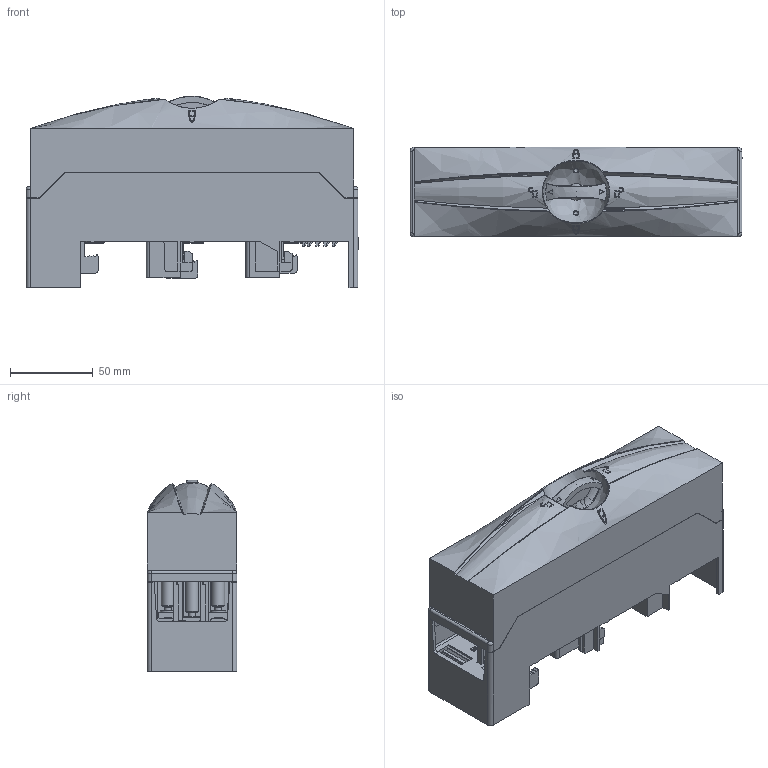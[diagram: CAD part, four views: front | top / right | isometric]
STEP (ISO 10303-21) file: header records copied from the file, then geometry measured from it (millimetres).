
FILE_DESCRIPTION (( 'STEP AP214' ), '1' );
FILE_NAME ('54240.STEP', '2021-08-12T06:13:41', ( '' ), ( '' ), 'SwSTEP 2.0', 'SolidWorks 2017', '' );
FILE_SCHEMA (( 'AUTOMOTIVE_DESIGN' ));
Length unit declared in the file: millimetre
Products named in the file (2): 54240
Bounding box: 200 x 54 x 115.5 mm (x, y, z)
Volume: 181114.9 mm3; surface area: 187633.3 mm2
Topology: 19 solids, 34 shells, 2889 faces, 8017 edges, 5270 vertices
Faces by surface type: plane 2129, cylinder 564, bspline 140, cone 48, torus 8
Full cylindrical faces by diameter (mm): 2 x3, 4 x6, 4.3 x3, 6.5 x3, 6.8 x3, 8 x3, 9 x6, 10 x3, 14 x1, 14.6 x1, 18 x1
Entity records: 113783 total; most frequent: CARTESIAN_POINT 35463, ORIENTED_EDGE 15830, DIRECTION 12736, EDGE_CURVE 7915, VECTOR 5600, LINE 5600, VERTEX_POINT 5230, AXIS2_PLACEMENT_3D 3568
